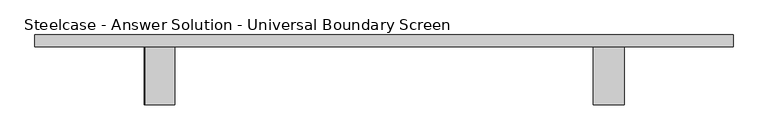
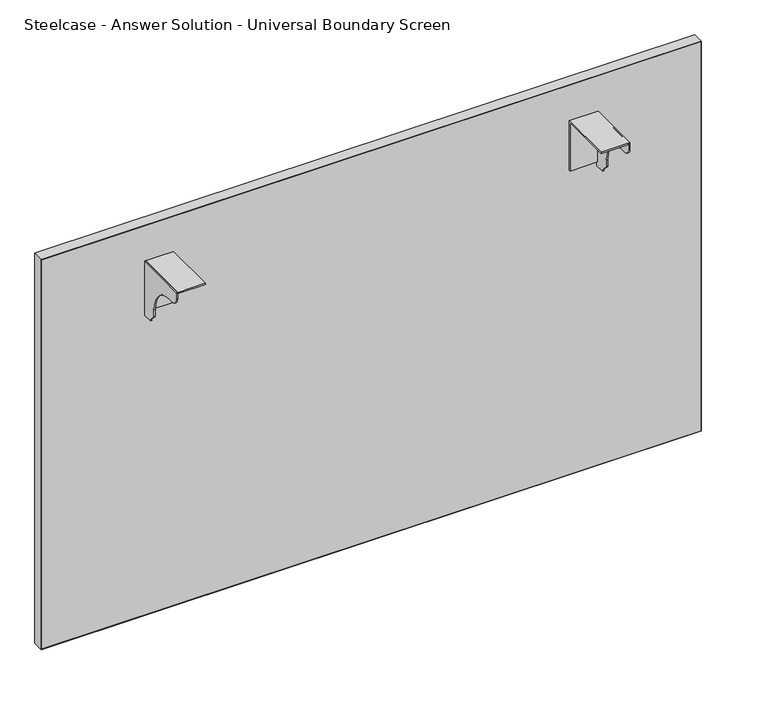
"""IFC4 building model written with IfcOpenShell, lengths in millimetres: furniture geometry, Steelcase - Answer Solution - Universal Boundary Screen : 30H x 48W."""

import ifcopenshell
import ifcopenshell.guid

model = None  # the IFC model being written
_history = None  # IfcOwnerHistory: only IFC2X3 demands one
_inside = {}  # id of a spatial element -> (the spatial element, [elements in it])
_under = {}  # id of a project, library or spatial element -> (it, [spatial elements below it])
_declared = {}  # id of a project -> (the project, [libraries it declares])
_typed = {}  # id of a type object -> (the type object, [elements of that type])
_made_of = {}  # id of a material, layer set ... -> (it, [elements and type objects made of it])


def new_model(schema):
    """Start an empty IFC model of exactly this schema.

    Asked for "IFC4X3", IfcOpenShell would pick the latest addendum, in which some entities
    have other attributes; the version numbers below select the first issue.
    IFC2X3 requires an IfcOwnerHistory on every rooted entity: one is made here for all.
    """
    global model, _history
    if schema == "IFC4X3":
        model = ifcopenshell.file(schema_version=(4, 3, 0, 0))
    else:
        model = ifcopenshell.file(schema=schema)
    _inside.clear()
    _under.clear()
    _declared.clear()
    _typed.clear()
    _made_of.clear()
    _history = None
    if model.schema == "IFC2X3":
        org = make("IfcOrganization", Name="unknown")
        user = make(
            "IfcPersonAndOrganization",
            ThePerson=make("IfcPerson", FamilyName="unknown"),
            TheOrganization=org,
        )
        app = make(
            "IfcApplication",
            ApplicationDeveloper=org,
            Version="unknown",
            ApplicationFullName="unknown",
            ApplicationIdentifier="unknown",
        )
        _history = make(
            "IfcOwnerHistory",
            OwningUser=user,
            OwningApplication=app,
            ChangeAction="ADDED",
            CreationDate=0,
        )
    return model


def make(cls, **values):
    """One entity of the class cls with the attributes given. An attribute that is None is left unset."""
    return model.create_entity(
        cls, **{name: value for name, value in values.items() if value is not None}
    )


def rooted(cls, **values):
    """An entity with a GlobalId (a new one), such as an element, a storey or a relation."""
    return make(cls, GlobalId=ifcopenshell.guid.new(), OwnerHistory=_history, **values)


def si_unit(unit_type, name, prefix=None):
    """IfcSIUnit, for example si_unit("LENGTHUNIT", "METRE", prefix="MILLI")."""
    return make("IfcSIUnit", UnitType=unit_type, Prefix=prefix, Name=name)


def assignment(units):
    """IfcUnitAssignment: the units of a project."""
    return None if units is None else make("IfcUnitAssignment", Units=units)


def point(xyz):
    """IfcCartesianPoint."""
    return None if xyz is None else make("IfcCartesianPoint", Coordinates=xyz)


def direction(xyz):
    """IfcDirection."""
    return None if xyz is None else make("IfcDirection", DirectionRatios=xyz)


def frame(location, z_axis=None, x_axis=None):
    """IfcAxis2Placement3D, a coordinate frame: its origin and axes. An axis left out is left unset."""
    return make(
        "IfcAxis2Placement3D",
        Location=point(location),
        Axis=direction(z_axis),
        RefDirection=direction(x_axis),
    )


def frame_2d(location, x_axis=None):
    """IfcAxis2Placement2D, a coordinate frame in the plane: its origin and x axis."""
    return make(
        "IfcAxis2Placement2D", Location=point(location), RefDirection=direction(x_axis)
    )


def origin():
    """The frame at (0, 0, 0) with its axes left unset."""
    return frame((0.0, 0.0, 0.0))


def place(relative_to, where):
    """IfcLocalPlacement: puts the frame where relative to a parent placement (None: the world)."""
    return make(
        "IfcLocalPlacement", PlacementRelTo=relative_to, RelativePlacement=where
    )


def context(
    kind, dimensions, precision=None, world=None, true_north=None, identifier=None
):
    """IfcGeometricRepresentationContext, for example the 3D "Model" context."""
    return make(
        "IfcGeometricRepresentationContext",
        ContextIdentifier=identifier,
        ContextType=kind,
        CoordinateSpaceDimension=dimensions,
        Precision=precision,
        WorldCoordinateSystem=world,
        TrueNorth=true_north,
    )


def project(units=None, contexts=None):
    """IfcProject with its units and contexts."""
    return rooted(
        "IfcProject",
        Name="project",
        RepresentationContexts=contexts,
        UnitsInContext=assignment(units),
    )


def spatial(cls, under=None, at=None, **own):
    """A site, building, storey or space (cls), placed at a placement, below another one or the project."""
    s = rooted(cls, ObjectPlacement=at, **own)
    if under is not None:
        _under.setdefault(under.id(), (under, []))[1].append(s)
    return s


def polyline(points):
    """IfcPolyline through the points."""
    return make("IfcPolyline", Points=[point(p) for p in points])


def circle_curve(where, radius):
    """IfcCircle in the frame where."""
    return make("IfcCircle", Position=where, Radius=radius)


def trimmed(basis, trim1, trim2, sense, master):
    """IfcTrimmedCurve: the piece of a basis curve between two trims."""
    return make(
        "IfcTrimmedCurve",
        BasisCurve=basis,
        Trim1=trim1,
        Trim2=trim2,
        SenseAgreement=sense,
        MasterRepresentation=master,
    )


def segment(curve, same_sense, transition):
    """IfcCompositeCurveSegment."""
    return make(
        "IfcCompositeCurveSegment",
        Transition=transition,
        SameSense=same_sense,
        ParentCurve=curve,
    )


def composite_curve(segments, self_intersect=None):
    """IfcCompositeCurve: segments joined end to end."""
    return make("IfcCompositeCurve", Segments=segments, SelfIntersect=self_intersect)


def outline(outer, holes=None, kind="AREA"):
    """IfcArbitraryClosedProfileDef: a profile drawn as a closed curve; with holes, ...WithVoids."""
    if holes is None:
        return make("IfcArbitraryClosedProfileDef", ProfileType=kind, OuterCurve=outer)
    return make(
        "IfcArbitraryProfileDefWithVoids",
        ProfileType=kind,
        OuterCurve=outer,
        InnerCurves=holes,
    )


def extrude(swept, where, along, depth):
    """IfcExtrudedAreaSolid: the profile swept, set in the frame where, extruded along a direction by depth."""
    return make(
        "IfcExtrudedAreaSolid",
        SweptArea=swept,
        Position=where,
        ExtrudedDirection=direction(along),
        Depth=depth,
    )


def shape(context_of_items, identifier, shape_type, items):
    """IfcShapeRepresentation: the items that make up one representation, for example the "Body"."""
    return make(
        "IfcShapeRepresentation",
        ContextOfItems=context_of_items,
        RepresentationIdentifier=identifier,
        RepresentationType=shape_type,
        Items=items,
    )


def source(mapping_origin, context_of_items, identifier, shape_type, items):
    """IfcRepresentationMap: a shape defined once, which mapped items show again and again."""
    return make(
        "IfcRepresentationMap",
        MappingOrigin=mapping_origin,
        MappedRepresentation=shape(context_of_items, identifier, shape_type, items),
    )


def transform(
    local_origin,
    x_axis=None,
    y_axis=None,
    z_axis=None,
    scale=None,
    scale2=None,
    scale3=None,
    uniform=True,
):
    """IfcCartesianTransformationOperator3D, or its non-uniform kind. x_axis, y_axis, z_axis: its Axis1, 2, 3."""
    if uniform:
        return make(
            "IfcCartesianTransformationOperator3D",
            Axis1=direction(x_axis),
            Axis2=direction(y_axis),
            LocalOrigin=point(local_origin),
            Scale=scale,
            Axis3=direction(z_axis),
        )
    return make(
        "IfcCartesianTransformationOperator3DnonUniform",
        Axis1=direction(x_axis),
        Axis2=direction(y_axis),
        LocalOrigin=point(local_origin),
        Scale=scale,
        Axis3=direction(z_axis),
        Scale2=scale2,
        Scale3=scale3,
    )


def mapped(mapping_source, mapping_target):
    """IfcMappedItem: shows the shape of a source again, moved by a transform."""
    return make(
        "IfcMappedItem", MappingSource=mapping_source, MappingTarget=mapping_target
    )


def made_of(thing, what):
    """Note that an element or type object is made of a material, layer set ...; save() writes the relation."""
    if what is not None:
        _made_of.setdefault(what.id(), (what, []))[1].append(thing)
    return thing


def element(
    cls,
    number,
    at=None,
    inside=None,
    cuts=None,
    type_object=None,
    material=None,
    context=None,
    identifier="Body",
    shape_type=None,
    held_by="IfcProductDefinitionShape",
    body=None,
    shapes=None,
    **own,
):
    """One element of the class cls, such as IfcWall. Its Tag is "e" and its number.

    at: its placement. inside: the storey or other place that contains it. cuts: it is an
    opening in that element (IfcRelVoidsElement). A single representation is given by context,
    identifier, shape_type and body (its items); several are given by shapes. held_by: the class
    of the entity that holds the representations. save() writes the other relations.
    """
    e = rooted(cls, Tag="e%d" % number, ObjectPlacement=at, **own)
    if body is not None:
        shapes = [shape(context, identifier, shape_type, body)]
    if shapes is not None:
        e.Representation = make(held_by, Representations=shapes)
    if inside is not None:
        _inside.setdefault(inside.id(), (inside, []))[1].append(e)
    if cuts is not None:
        rooted(
            "IfcRelVoidsElement", RelatingBuildingElement=cuts, RelatedOpeningElement=e
        )
    if type_object is not None:
        _typed.setdefault(type_object.id(), (type_object, []))[1].append(e)
    return made_of(e, material)


def aggregate(whole, parts):
    """IfcRelAggregates: a whole, such as a stair, and the parts it consists of."""
    return rooted("IfcRelAggregates", RelatingObject=whole, RelatedObjects=parts)


def save(model, path):
    """Write the relations noted so far, then the file.

    IfcRelAggregates (storeys below a building ...), IfcRelContainedInSpatialStructure (elements
    in a storey), IfcRelDefinesByType, IfcRelAssociatesMaterial and IfcRelDeclares: one each for
    every whole, place, type object, material and project.
    """
    for whole, parts in _under.values():
        aggregate(whole, parts)
    for where, things in _inside.values():
        rooted(
            "IfcRelContainedInSpatialStructure",
            RelatedElements=things,
            RelatingStructure=where,
        )
    for kind, things in _typed.values():
        rooted("IfcRelDefinesByType", RelatedObjects=things, RelatingType=kind)
    for what, things in _made_of.values():
        rooted("IfcRelAssociatesMaterial", RelatedObjects=things, RelatingMaterial=what)
    for by, libraries in _declared.values():
        rooted("IfcRelDeclares", RelatingContext=by, RelatedDefinitions=libraries)
    model.write(path)


def steelcase_answer_solution_universal_boundary_screen_ce05d778(model_context):
    return source(origin(), model_context, "Body", "SweptSolid", [
        extrude(outline(polyline([(-103.1670434, 689.3558876), (-103.1670434, 692.1499758), (-1.5668826, 692.1499758), (-1.5668826, 595.5029317), (-4.1079736, 595.5029317), (-4.1079736, 689.3558876), (-103.1670434, 689.3558876)])), frame((895.8336711, 0.0, 0.0), z_axis=(1.0, 0.0, 0.0), x_axis=(0.0, 1.0, 0.0)), (0.0, 0.0, 1.0), 53.3444116),
        extrude(outline(composite_curve([segment(polyline([(-103.1670434, 679.2814802), (-103.1670434, 692.1499758), (-1.5668826, 692.1499758), (-1.5668826, 586.9634093), (-19.8232934, 586.9634093), (-19.8232934, 589.7574248), (-32.0458032, 601.9799346), (-32.0458032, 615.7814802)]), True, "CONTINUOUS"), segment(trimmed(circle_curve(frame_2d((-82.8458032, 615.7814802)), 50.8), [point((-32.0458032, 615.7814802))], [point((-82.8458032, 666.5814802))], True, "CARTESIAN"), True, "CONTINUOUS"), segment(polyline([(-82.8458032, 666.5814802), (-90.4670434, 666.5814802)]), True, "CONTINUOUS"), segment(trimmed(circle_curve(frame_2d((-90.4670434, 679.2814802)), 12.7), [point((-90.4670434, 666.5814802))], [point((-103.1670434, 679.2814802))], False, "CARTESIAN"), True, "CONTINUOUS")], self_intersect=False)), frame((946.6328959, 0.0, 0.0), z_axis=(1.0, 0.0, 0.0), x_axis=(0.0, 1.0, 0.0)), (0.0, 0.0, 1.0), 2.5451868),
        extrude(outline(polyline([(-103.1670434, 689.3558876), (-103.1670434, 692.1499758), (-1.5668826, 692.1499758), (-1.5668826, 595.5029317), (-4.1079736, 595.5029317), (-4.1079736, 689.3558876), (-103.1670434, 689.3558876)])), frame((113.5232694, 0.0, 0.0), z_axis=(1.0, 0.0, 0.0), x_axis=(0.0, 1.0, 0.0)), (0.0, 0.0, 1.0), 50.7992249),
        extrude(outline(composite_curve([segment(polyline([(-103.1670434, 679.2814802), (-103.1670434, 692.1499758), (-1.5668826, 692.1499758), (-1.5668826, 586.9634093), (-19.8232934, 586.9634093), (-19.8232934, 589.7574248), (-32.0458032, 601.9799346), (-32.0458032, 615.7814802)]), True, "CONTINUOUS"), segment(trimmed(circle_curve(frame_2d((-82.8458032, 615.7814802)), 50.8), [point((-32.0458032, 615.7814802))], [point((-82.8458032, 666.5814802))], True, "CARTESIAN"), True, "CONTINUOUS"), segment(polyline([(-82.8458032, 666.5814802), (-90.4670434, 666.5814802)]), True, "CONTINUOUS"), segment(trimmed(circle_curve(frame_2d((-90.4670434, 679.2814802)), 12.7), [point((-90.4670434, 666.5814802))], [point((-103.1670434, 679.2814802))], False, "CARTESIAN"), True, "CONTINUOUS")], self_intersect=False)), frame((110.9780827, 0.0, 0.0), z_axis=(1.0, 0.0, 0.0), x_axis=(0.0, 1.0, 0.0)), (0.0, 0.0, 1.0), 2.5451868),
        extrude(outline(polyline([(-78.5293422, 18.9055112), (1138.6855076, 18.9055112), (1138.6855076, -1.5668826), (-78.5293422, -1.5668826), (-78.5293422, 18.9055112)])), frame((0.0, 0.0, 1.016), z_axis=(0.0, 0.0, 1.0), x_axis=(1.0, 0.0, 0.0)), (0.0, 0.0, 1.0), 759.9914249),
        extrude(outline(polyline([(762.0, 1139.6780827), (762.0, -79.5219173), (0.0, -79.5219173), (0.0, 1139.6780827), (762.0, 1139.6780827)]), holes=[polyline([(761.0074249, 1138.6855076), (1.016, 1138.6855076), (1.016, -78.5293422), (761.0074249, -78.5293422), (761.0074249, 1138.6855076)])]), frame((0.0, -1.5668826, 0.0), z_axis=(0.0, 1.0, 0.0), x_axis=(0.0, 0.0, 1.0)), (0.0, 0.0, 1.0), 20.4723938),
    ])


if __name__ == "__main__":
    model = new_model("IFC4")
    model_context = context("Model", 3, world=origin())
    ifc_project = project(units=[si_unit("LENGTHUNIT", "METRE", prefix="MILLI")], contexts=[model_context])
    site = spatial("IfcSite", under=ifc_project)
    building = spatial("IfcBuilding", under=site)
    placement = place(None, origin())
    steelcase_answer_solution_universal_boundary_screen_shape = steelcase_answer_solution_universal_boundary_screen_ce05d778(model_context)
    element("IfcFurniture", 1, ObjectType="Steelcase - Answer Solution - Universal Boundary Screen : 30H x 48W", at=placement, inside=building, context=model_context, shape_type="MappedRepresentation", body=[
        mapped(steelcase_answer_solution_universal_boundary_screen_shape, transform((0.0, 0.0, 0.0), x_axis=(1.0, 0.0, 0.0), y_axis=(0.0, 1.0, 0.0), z_axis=(0.0, 0.0, 1.0))),
    ])
    save(model, "model.ifc")
